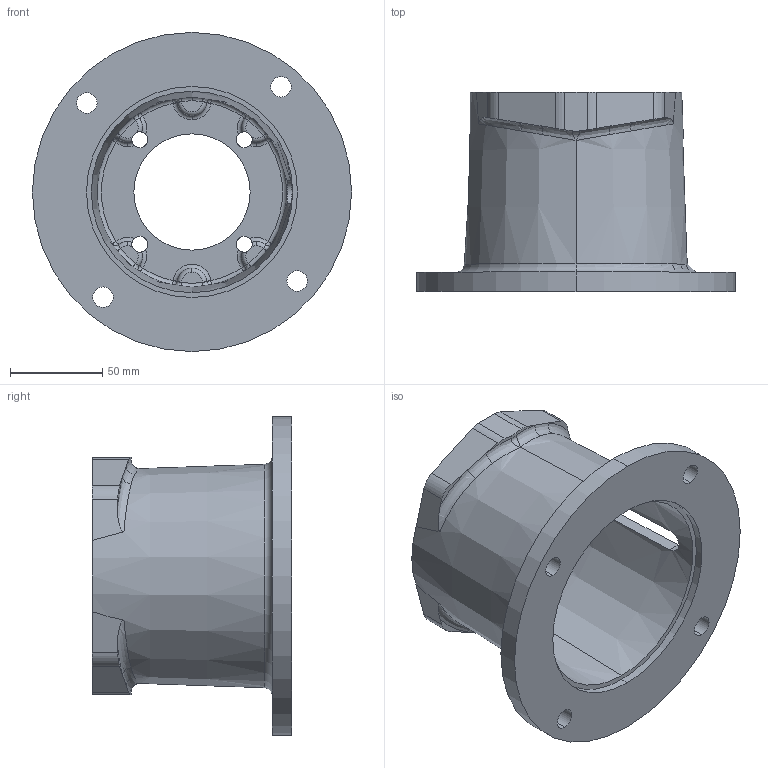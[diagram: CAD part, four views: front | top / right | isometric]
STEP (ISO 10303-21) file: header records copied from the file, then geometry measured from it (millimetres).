
FILE_DESCRIPTION (( 'STEP AP203' ), '1' );
FILE_NAME ('M0564263MS.STEP', '2015-01-19T15:29:04', ( '' ), ( '' ), 'SwSTEP 2.0', 'SolidWorks 2014', '' );
FILE_SCHEMA (( 'CONFIG_CONTROL_DESIGN' ));
Length unit declared in the file: inch
Products named in the file (1): M0564263MS
Bounding box: 172.97 x 107.92 x 172.97 mm (x, y, z)
Volume: 439053.6 mm3; surface area: 117445.1 mm2
Topology: 1 solids, 1 shells, 195 faces, 509 edges, 300 vertices
Faces by surface type: torus 54, bspline 38, cylinder 34, plane 31, sphere 24, cone 14
Entity records: 8148 total; most frequent: CARTESIAN_POINT 3546, ORIENTED_EDGE 990, DIRECTION 958, EDGE_CURVE 495, AXIS2_PLACEMENT_3D 439, VERTEX_POINT 300, CIRCLE 281, EDGE_LOOP 213
